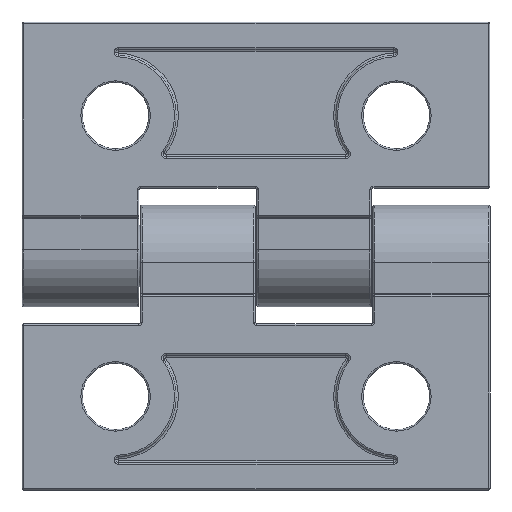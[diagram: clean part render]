
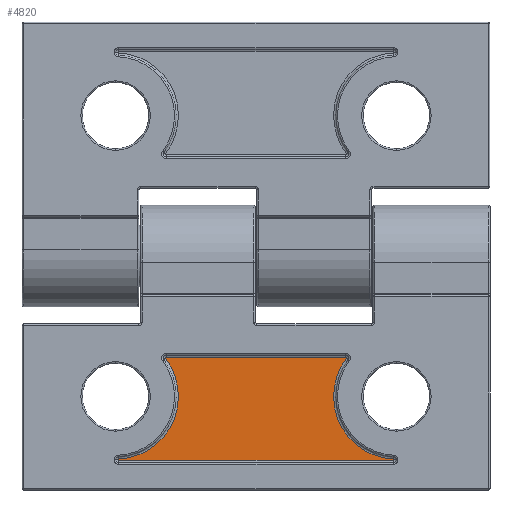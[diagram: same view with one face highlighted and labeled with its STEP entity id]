
A CAD part, front view. The second image highlights one B-rep face of the part: STEP entity #4820.
In plain terms, the highlighted planar face has unit normal (0, -1, 0).
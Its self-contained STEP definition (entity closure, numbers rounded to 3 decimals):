
#2531 = CARTESIAN_POINT ( 'NONE',  ( -17.7, -4.5, -26.125 ) ) ;
#2579 = CARTESIAN_POINT ( 'NONE',  ( 17.628, -4.5, -26.041 ) ) ;
#2586 = CIRCLE ( 'NONE', #2670, 0.075 ) ;
#2590 = CARTESIAN_POINT ( 'NONE',  ( -11.538, -4.5, -13. ) ) ;
#2594 = CARTESIAN_POINT ( 'NONE',  ( 11.597, -4.5, -13.12 ) ) ;
#2600 = CARTESIAN_POINT ( 'NONE',  ( 11.538, -4.5, -13. ) ) ;
#2601 = DIRECTION ( 'NONE',  ( 0., 0., -1. ) ) ;
#2602 = DIRECTION ( 'NONE',  ( 0., -1., 0. ) ) ;
#2603 = AXIS2_PLACEMENT_3D ( 'NONE', #2605, #2602, #2601 ) ;
#2605 = CARTESIAN_POINT ( 'NONE',  ( 11.538, -4.5, -13.075 ) ) ;
#2611 = CIRCLE ( 'NONE', #2603, 0.075 ) ;
#2613 = CARTESIAN_POINT ( 'NONE',  ( -17.7, -4.5, -26.116 ) ) ;
#2614 = DIRECTION ( 'NONE',  ( 0., 0., -1. ) ) ;
#2615 = DIRECTION ( 'NONE',  ( 0., -1., 0. ) ) ;
#2616 = CARTESIAN_POINT ( 'NONE',  ( -18., -4.5, -18. ) ) ;
#2617 = AXIS2_PLACEMENT_3D ( 'NONE', #2665, #2650, #2649 ) ;
#2618 = DIRECTION ( 'NONE',  ( 1., 0., 0. ) ) ;
#2619 = VECTOR ( 'NONE', #2618, 1000. ) ;
#2620 = CIRCLE ( 'NONE', #2674, 8.05 ) ;
#2621 = AXIS2_PLACEMENT_3D ( 'NONE', #2626, #2615, #2614 ) ;
#2622 = CIRCLE ( 'NONE', #2621, 0.075 ) ;
#2623 = CARTESIAN_POINT ( 'NONE',  ( 17.7, -4.5, -26.125 ) ) ;
#2624 = CARTESIAN_POINT ( 'NONE',  ( 18., -4.5, -26.2 ) ) ;
#2625 = LINE ( 'NONE', #2624, #2619 ) ;
#2626 = CARTESIAN_POINT ( 'NONE',  ( 17.625, -4.5, -26.116 ) ) ;
#2634 = CARTESIAN_POINT ( 'NONE',  ( 17.7, -4.5, -26.116 ) ) ;
#2636 = DIRECTION ( 'NONE',  ( 0., 0., -1. ) ) ;
#2637 = DIRECTION ( 'NONE',  ( 0., 1., 0. ) ) ;
#2638 = CARTESIAN_POINT ( 'NONE',  ( 18., -4.5, -18. ) ) ;
#2639 = AXIS2_PLACEMENT_3D ( 'NONE', #2638, #2637, #2636 ) ;
#2640 = CIRCLE ( 'NONE', #2639, 8.05 ) ;
#2641 = CARTESIAN_POINT ( 'NONE',  ( 17.625, -4.5, -26.125 ) ) ;
#2642 = FACE_OUTER_BOUND ( 'NONE', #4802, .T. ) ;
#2643 = DIRECTION ( 'NONE',  ( 0., 0., 1. ) ) ;
#2644 = VECTOR ( 'NONE', #2643, 1000. ) ;
#2645 = CARTESIAN_POINT ( 'NONE',  ( 17.7, -4.5, -18. ) ) ;
#2646 = LINE ( 'NONE', #2645, #2644 ) ;
#2649 = DIRECTION ( 'NONE',  ( 0., 0., -1. ) ) ;
#2650 = DIRECTION ( 'NONE',  ( 0., -1., 0. ) ) ;
#2651 = PLANE ( 'NONE',  #2652 ) ;
#2652 = AXIS2_PLACEMENT_3D ( 'NONE', #2707, #2706, #2705 ) ;
#2653 = CARTESIAN_POINT ( 'NONE',  ( 18., -4.5, -13. ) ) ;
#2654 = LINE ( 'NONE', #2653, #2697 ) ;
#2655 = CARTESIAN_POINT ( 'NONE',  ( -17.625, -4.5, -26.2 ) ) ;
#2656 = DIRECTION ( 'NONE',  ( 0., 0., -1. ) ) ;
#2657 = VECTOR ( 'NONE', #2656, 1000. ) ;
#2658 = CARTESIAN_POINT ( 'NONE',  ( -17.628, -4.5, -26.041 ) ) ;
#2659 = CIRCLE ( 'NONE', #2617, 0.075 ) ;
#2660 = CARTESIAN_POINT ( 'NONE',  ( -17.7, -4.5, -18. ) ) ;
#2665 = CARTESIAN_POINT ( 'NONE',  ( -17.625, -4.5, -26.116 ) ) ;
#2666 = LINE ( 'NONE', #2660, #2657 ) ;
#2667 = DIRECTION ( 'NONE',  ( 0., 0., -1. ) ) ;
#2668 = DIRECTION ( 'NONE',  ( 0., -1., 0. ) ) ;
#2669 = CARTESIAN_POINT ( 'NONE',  ( -11.538, -4.5, -13.075 ) ) ;
#2670 = AXIS2_PLACEMENT_3D ( 'NONE', #2669, #2668, #2667 ) ;
#2671 = CARTESIAN_POINT ( 'NONE',  ( 17.625, -4.5, -26.2 ) ) ;
#2672 = DIRECTION ( 'NONE',  ( 0., 0., -1. ) ) ;
#2673 = DIRECTION ( 'NONE',  ( 0., 1., 0. ) ) ;
#2674 = AXIS2_PLACEMENT_3D ( 'NONE', #2616, #2673, #2672 ) ;
#2676 = DIRECTION ( 'NONE',  ( 0., 0., -1. ) ) ;
#2677 = DIRECTION ( 'NONE',  ( 0., -1., 0. ) ) ;
#2678 = CARTESIAN_POINT ( 'NONE',  ( -17.625, -4.5, -26.125 ) ) ;
#2684 = AXIS2_PLACEMENT_3D ( 'NONE', #2678, #2677, #2676 ) ;
#2696 = DIRECTION ( 'NONE',  ( -1., 0., 0. ) ) ;
#2697 = VECTOR ( 'NONE', #2696, 1000. ) ;
#2698 = CARTESIAN_POINT ( 'NONE',  ( -11.597, -4.5, -13.12 ) ) ;
#2700 = DIRECTION ( 'NONE',  ( 0., 0., -1. ) ) ;
#2701 = DIRECTION ( 'NONE',  ( 0., -1., 0. ) ) ;
#2702 = AXIS2_PLACEMENT_3D ( 'NONE', #2641, #2701, #2700 ) ;
#2703 = CIRCLE ( 'NONE', #2702, 0.075 ) ;
#2705 = DIRECTION ( 'NONE',  ( 0., 0., -1. ) ) ;
#2706 = DIRECTION ( 'NONE',  ( 0., -1., 0. ) ) ;
#2707 = CARTESIAN_POINT ( 'NONE',  ( 18., -4.5, -18. ) ) ;
#2708 = CIRCLE ( 'NONE', #2684, 0.075 ) ;
#4753 = VERTEX_POINT ( 'NONE', #2531 ) ;
#4760 = ORIENTED_EDGE ( 'NONE', *, *, #4823, .T. ) ;
#4765 = VERTEX_POINT ( 'NONE', #2579 ) ;
#4779 = EDGE_CURVE ( 'NONE', #4788, #4786, #2611, .T. ) ;
#4780 = ORIENTED_EDGE ( 'NONE', *, *, #4791, .T. ) ;
#4781 = ORIENTED_EDGE ( 'NONE', *, *, #4803, .T. ) ;
#4783 = ORIENTED_EDGE ( 'NONE', *, *, #4779, .T. ) ;
#4786 = VERTEX_POINT ( 'NONE', #2600 ) ;
#4788 = VERTEX_POINT ( 'NONE', #2594 ) ;
#4789 = VERTEX_POINT ( 'NONE', #2590 ) ;
#4791 = EDGE_CURVE ( 'NONE', #4765, #4788, #2640, .T. ) ;
#4796 = VERTEX_POINT ( 'NONE', #2634 ) ;
#4797 = VERTEX_POINT ( 'NONE', #2623 ) ;
#4798 = EDGE_CURVE ( 'NONE', #4819, #4809, #2625, .T. ) ;
#4799 = ORIENTED_EDGE ( 'NONE', *, *, #4798, .T. ) ;
#4800 = EDGE_CURVE ( 'NONE', #4796, #4765, #2622, .T. ) ;
#4801 = ORIENTED_EDGE ( 'NONE', *, *, #4821, .T. ) ;
#4802 = EDGE_LOOP ( 'NONE', ( #4780, #4783, #4760, #4806, #4781, #4810, #4814, #4822, #4799, #4801, #4817, #4833 ) ) ;
#4803 = EDGE_CURVE ( 'NONE', #4824, #4812, #2620, .T. ) ;
#4804 = EDGE_CURVE ( 'NONE', #4789, #4824, #2586, .T. ) ;
#4806 = ORIENTED_EDGE ( 'NONE', *, *, #4804, .T. ) ;
#4809 = VERTEX_POINT ( 'NONE', #2671 ) ;
#4810 = ORIENTED_EDGE ( 'NONE', *, *, #4813, .T. ) ;
#4811 = EDGE_CURVE ( 'NONE', #4815, #4753, #2666, .T. ) ;
#4812 = VERTEX_POINT ( 'NONE', #2658 ) ;
#4813 = EDGE_CURVE ( 'NONE', #4812, #4815, #2659, .T. ) ;
#4814 = ORIENTED_EDGE ( 'NONE', *, *, #4811, .T. ) ;
#4815 = VERTEX_POINT ( 'NONE', #2613 ) ;
#4816 = EDGE_CURVE ( 'NONE', #4797, #4796, #2646, .T. ) ;
#4817 = ORIENTED_EDGE ( 'NONE', *, *, #4816, .T. ) ;
#4819 = VERTEX_POINT ( 'NONE', #2655 ) ;
#4820 = ADVANCED_FACE ( 'NONE', ( #2642 ), #2651, .T. ) ;
#4821 = EDGE_CURVE ( 'NONE', #4809, #4797, #2703, .T. ) ;
#4822 = ORIENTED_EDGE ( 'NONE', *, *, #4839, .T. ) ;
#4823 = EDGE_CURVE ( 'NONE', #4786, #4789, #2654, .T. ) ;
#4824 = VERTEX_POINT ( 'NONE', #2698 ) ;
#4833 = ORIENTED_EDGE ( 'NONE', *, *, #4800, .T. ) ;
#4839 = EDGE_CURVE ( 'NONE', #4753, #4819, #2708, .T. ) ;
